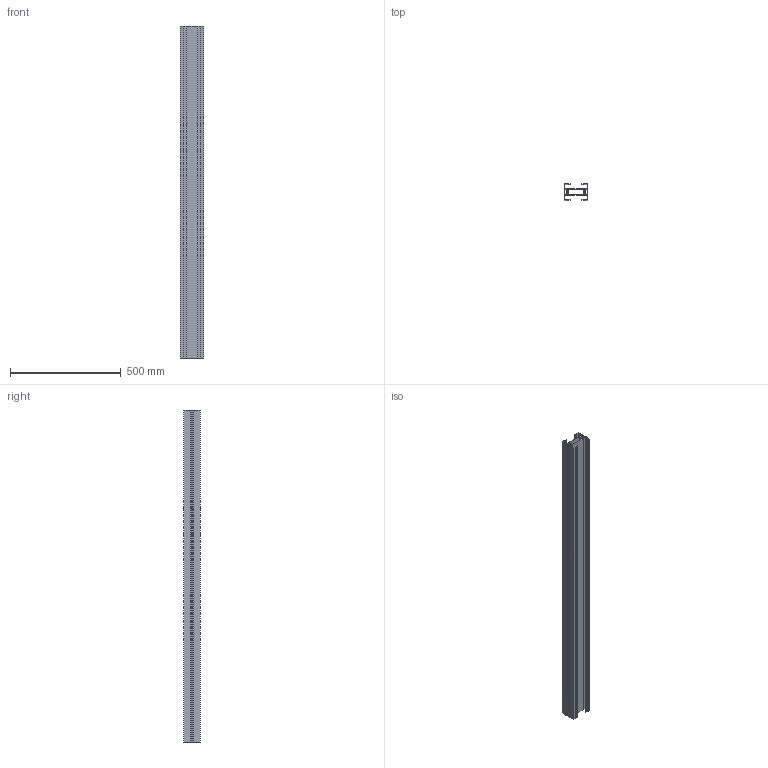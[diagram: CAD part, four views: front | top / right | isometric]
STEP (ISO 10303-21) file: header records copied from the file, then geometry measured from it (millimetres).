
FILE_DESCRIPTION (( 'STEP AP203' ), '1' );
FILE_NAME ('stucture FC.STEP', '2007-12-20T14:47:19', ( ' ' ), ( ' ' ), 'SwSTEP 2.0', 'SolidWorks 2008', '' );
FILE_SCHEMA (( 'CONFIG_CONTROL_DESIGN' ));
Length unit declared in the file: millimetre
Products named in the file (1): stucture FC
Bounding box: 105 x 74.5 x 1500 mm (x, y, z)
Volume: 1480293.1 mm3; surface area: 1508866.4 mm2
Topology: 1 solids, 1 shells, 152 faces, 450 edges, 300 vertices
Faces by surface type: plane 96, cylinder 56
Entity records: 5167 total; most frequent: CARTESIAN_POINT 903, ORIENTED_EDGE 900, DIRECTION 868, EDGE_CURVE 450, VECTOR 338, LINE 338, VERTEX_POINT 300, AXIS2_PLACEMENT_3D 265
